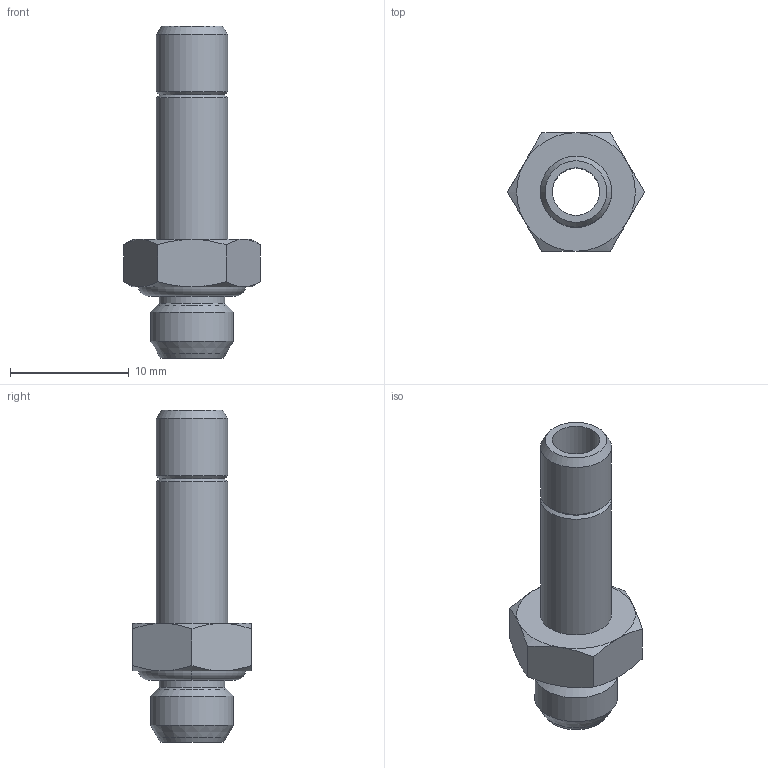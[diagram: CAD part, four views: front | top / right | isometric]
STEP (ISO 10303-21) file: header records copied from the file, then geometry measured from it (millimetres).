
FILE_DESCRIPTION(('Bauteilbeschreibung','HiCAD-Model','HiCAD-STEP-TRANSLATION','Bauteilbeschreibung'),'2;1');
FILE_NAME('B:/ABGLEICH/ZEICHNUNGEN/STEP FÜR INTERNET/STEP/IPSO 06/200622_IPSO_06_6_M7.STP','2012-03-08T07:36:46+00:00',('Konstrukteur'),('Konstrukteur Firma GmbH'),' HiCAD neXt 2008, Step 3.1.1401.2J ','HiCAD neXt 2008','confidential');
FILE_SCHEMA(('AUTOMOTIVE_DESIGN { 1 2 10303 214 0 1 1 1 }'));
Length unit declared in the file: millimetre
Products named in the file (5): A00622_IPSO_06_6_M7; A00622_N; A006220N; DIN 13_M7; OR 5_28X1_78
Assembly tree (4 placements, depth 3):
  A00622_IPSO_06_6_M7
    A00622_N
    A006220N
      DIN 13_M7
    OR 5_28X1_78
Bounding box: 11.55 x 10 x 28 mm (x, y, z)
Volume: 710.1 mm3; surface area: 1402.3 mm2
Topology: 3 solids, 3 shells, 44 faces, 94 edges, 55 vertices
Faces by surface type: cone 20, plane 11, cylinder 7, torus 6
Full cylindrical faces by diameter (mm): 4 x1, 5.5 x1, 5.773 x2, 6 x2, 7 x1
Entity records: 1467 total; most frequent: CARTESIAN_POINT 220, DIRECTION 192, ORIENTED_EDGE 142, AXIS2_PLACEMENT_3D 93, EDGE_CURVE 71, COLOUR_RGB 66, EDGE_LOOP 66, PRESENTATION_STYLE_ASSIGNMENT 66
